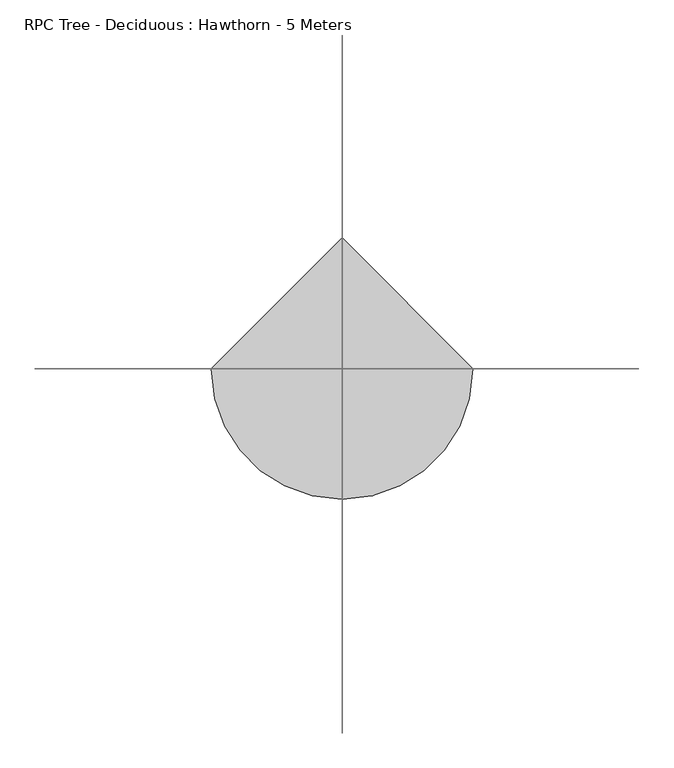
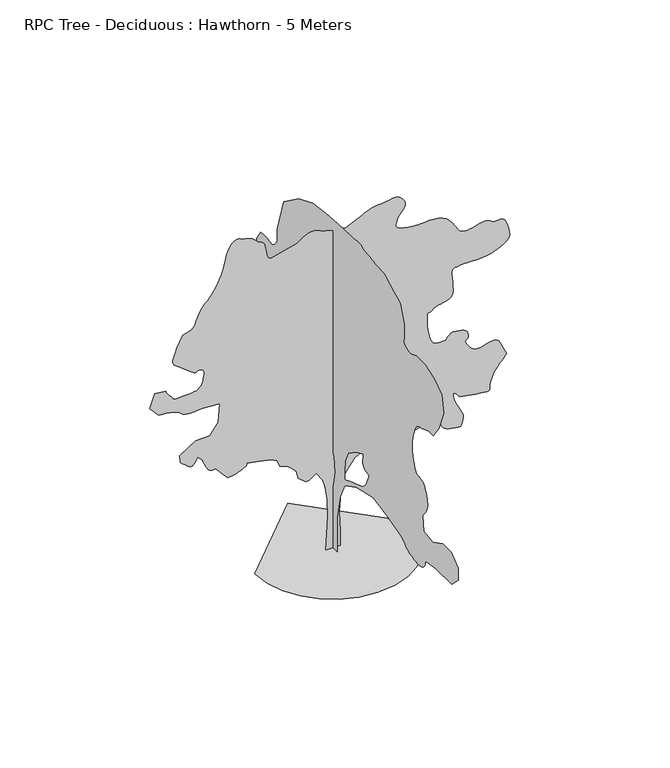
"""IFC4 building model written with IfcOpenShell, lengths in millimetres: geographic element geometry, RPC Tree - Deciduous : Hawthorn - 5 Meters."""

from ifc_helpers import new_model, si_unit, origin, place, context, project, spatial, triangles, source, transform, mapped, element, save


def rpc_tree_deciduous_hawthorn_5_meters_61e68b76(model_context):
    return source(origin(), model_context, "Body", "Tessellation", [
        triangles([(104.4180632, 0.000259, 0.0126693), (-101.1095624, 0.000259, 0.0126693), (-71.748096, 0.0002301, 484.4695201), (-79.0885864, 0.0002152, 734.0392794), (-108.4493942, 0.0002038, 924.8857698), (-137.8108651, 0.0001968, 1042.330636), (-233.2330929, 0.000189, 1174.4554928), (-328.6579914, 0.0001929, 1108.3922287), (-380.0396298, 0.0001933, 1101.0521971), (-482.802834, 0.0001881, 1189.1354834), (-512.1644866, 0.0001811, 1306.5804222), (-614.9277271, 0.000175, 1409.3436264), (-739.7126249, 0.0001719, 1460.7252285), (-776.4142365, 0.0001667, 1548.8085148), (-857.1574911, 0.000164, 1592.8500126), (-1025.982288, 0.0001618, 1629.5516968), (-1194.8088289, 0.0001601, 1658.9116779), (-1193.4821657, 0.0001605, 1652.5566879), (-1193.6321566, 0.0001609, 1645.8149483), (-1196.7354555, 0.0001613, 1638.3033428), (-1204.2687893, 0.0001618, 1629.6367207), (-1217.7071405, 0.0001624, 1619.4283321), (-1238.5303608, 0.0001632, 1607.2950611), (-1268.2121246, 0.000164, 1592.8500126), (-1301.3170807, 0.0001649, 1578.8334263), (-1331.7269978, 0.0001655, 1567.8967392), (-1359.8886509, 0.000166, 1559.5300987), (-1386.2552101, 0.0001664, 1553.2168213), (-1411.2718517, 0.0001667, 1548.4451649), (-1435.3885483, 0.0001669, 1544.70019), (-1459.0584698, 0.0001671, 1541.4684105), (-1539.8017971, 0.0001618, 1629.5516968), (-1627.8850834, 0.0001557, 1732.314901), (-1645.1767605, 0.0001559, 1729.3649357), (-1662.4033253, 0.000156, 1727.5649002), (-1679.4983574, 0.000156, 1728.0815838), (-1696.414912, 0.0001557, 1732.0649162), (-1713.0649132, 0.0001552, 1740.6649727), (-1729.3816498, 0.0001544, 1755.0482517), (-1745.3315483, 0.0001531, 1776.3482597), (-1759.7815384, 0.0001516, 1800.6647987), (-1771.9149548, 0.0001503, 1823.4315777), (-1782.1149136, 0.000149, 1844.9148594), (-1790.7815357, 0.0001478, 1865.381488), (-1798.2982281, 0.0001466, 1885.0647343), (-1805.031538, 0.0001455, 1904.2481564), (-1811.3981552, 0.0001443, 1923.1647343), (-1877.4481934, 0.0001404, 1989.2313412), (-1921.4981209, 0.0001443, 1923.1647343), (-1929.4480717, 0.0001451, 1910.7647644), (-1937.9981312, 0.0001458, 1899.5314384), (-1947.6814064, 0.0001463, 1890.6148315), (-1959.1147202, 0.0001466, 1885.1481594), (-1972.8480389, 0.0001467, 1884.31478), (-1989.4813259, 0.0001464, 1889.2647686), (-2009.5812618, 0.0001457, 1901.1480549), (-2031.8479259, 0.0001447, 1917.9814751), (-2053.8813194, 0.0001436, 1936.1146706), (-2074.4812248, 0.0001425, 1954.1147346), (-2092.5312859, 0.0001415, 1970.564748), (-2106.8478539, 0.0001407, 1984.0646507), (-2116.2812897, 0.0001402, 1993.1979595), (-2119.6812275, 0.00014, 1996.5646145), (-2127.0145008, 0.0001338, 2099.3311615), (-1906.8147148, 0.0001255, 2238.797794), (-1708.6316082, 0.0001251, 2246.1310673), (-1591.1833992, 0.0001159, 2400.2809605), (-1569.1617783, 0.0001002, 2664.530674), (-1811.3981552, 9.88e-05, 2686.5473534), (-1863.1147659, 9.92e-05, 2680.4640038), (-1913.7481579, 9.95e-05, 2675.6805748), (-1962.1981075, 9.96e-05, 2673.4472809), (-2007.3813961, 9.95e-05, 2675.0806114), (-2048.1812313, 9.91e-05, 2681.8473495), (-2083.5312538, 9.83e-05, 2695.0305565), (-2112.3479542, 9.71e-05, 2715.9138748), (-2141.364497, 9.58e-05, 2738.2973923), (-2177.3144829, 9.47e-05, 2755.6637741), (-2219.0478367, 9.39e-05, 2768.8806999), (-2265.3977692, 9.33e-05, 2778.7472488), (-2315.2143505, 9.29e-05, 2786.0970909), (-2367.3476509, 9.26e-05, 2791.7973244), (-2420.6308811, 9.23e-05, 2796.647319), (-2545.4141075, 8.4e-05, 2936.1138062), (-2472.0142273, 7.26e-05, 3126.9634941), (-2325.2143215, 7.35e-05, 3112.280088), (-2315.7310341, 7.45e-05, 3095.0137001), (-2305.9977619, 7.55e-05, 3077.9301498), (-2295.7476608, 7.65e-05, 3061.2468658), (-2284.7143227, 7.75e-05, 3045.1304077), (-2272.6643314, 7.84e-05, 3029.7801819), (-2259.3311337, 7.92e-05, 3015.4136169), (-2244.4644539, 8e-05, 3002.1804131), (-2233.3144077, 8.08e-05, 2989.6968727), (-2228.0811516, 8.15e-05, 2977.8635834), (-2223.8644032, 8.21e-05, 2967.3136459), (-2215.7977444, 8.26e-05, 2958.6970207), (-2198.9977524, 8.3e-05, 2952.6470993), (-2168.5811497, 8.32e-05, 2949.7969826), (-2119.6812275, 8.31e-05, 2950.7969215), (-2065.4813381, 8.29e-05, 2953.94702), (-2021.2812744, 8.27e-05, 2957.0971184), (-1985.4312824, 8.25e-05, 2960.2303574), (-1956.2647488, 8.23e-05, 2963.3804558), (-1932.1147694, 8.22e-05, 2966.5302635), (-1911.281448, 8.2e-05, 2969.6803619), (-1892.1314541, 8.18e-05, 2972.8136009), (-1873.3814358, 8.09e-05, 2987.0470345), (-1855.4147999, 8.01e-05, 3001.7304405), (-1838.9815006, 7.91e-05, 3017.3137917), (-1824.8482063, 7.81e-05, 3034.230201), (-1813.8148682, 7.7e-05, 3052.9636505), (-1806.6148716, 7.58e-05, 3073.930394), (-1804.0481678, 7.43e-05, 3097.5969727), (-1801.4481812, 7.28e-05, 3123.8802521), (-1795.7482384, 7.11e-05, 3151.4468834), (-1790.1815723, 6.95e-05, 3178.8800926), (-1787.9648472, 6.8e-05, 3204.7802559), (-1792.2815895, 6.66e-05, 3227.7134491), (-1806.3648869, 6.55e-05, 3246.2966171), (-1833.4148346, 6.47e-05, 3259.0967079), (-1860.5482075, 6.45e-05, 3261.9633934), (-1877.0315037, 6.49e-05, 3255.9634689), (-1889.2647686, 6.54e-05, 3247.5299721), (-1903.6980446, 6.57e-05, 3243.079953), (-1926.7148083, 6.53e-05, 3249.0301712), (-1964.764666, 6.4e-05, 3271.7968048), (-2024.2646679, 6.12e-05, 3317.8134727), (-2090.2812778, 5.82e-05, 3369.0632515), (-2143.4645142, 5.59e-05, 3406.9632637), (-2183.5478233, 5.41e-05, 3437.0300331), (-2210.2645065, 5.25e-05, 3464.7966522), (-2223.3811478, 5.06e-05, 3495.7465073), (-2222.6310482, 4.82e-05, 3535.4464096), (-2207.7645138, 4.5e-05, 3589.3963142), (-2186.5977825, 4.16e-05, 3647.1797058), (-2166.981102, 3.87e-05, 3695.7130806), (-2148.6312046, 3.63e-05, 3736.546344), (-2131.3312431, 3.42e-05, 3771.2128326), (-2114.7812359, 3.24e-05, 3801.2627426), (-2098.7479122, 3.08e-05, 3828.2294106), (-2082.9812874, 2.93e-05, 3853.6461731), (-2053.214645, 2.89e-05, 3860.1129295), (-2024.1479599, 2.84e-05, 3867.5961937), (-1996.4980488, 2.79e-05, 3877.1461922), (-1970.9647236, 2.71e-05, 3889.7794327), (-1948.2646557, 2.61e-05, 3906.5127136), (-1929.098093, 2.48e-05, 3928.3794022), (-1914.1481335, 2.32e-05, 3956.4125748), (-1903.4980568, 2.15e-05, 3984.7125916), (-1895.4148293, 2.01e-05, 4008.3794609), (-1887.9648479, 1.88e-05, 4029.995874), (-1879.2315147, 1.74e-05, 4052.1125473), (-1867.2815174, 1.59e-05, 4077.3293221), (-1850.2148266, 1.41e-05, 4108.1791832), (-1826.0648472, 1.18e-05, 4147.2625534), (-1800.8982147, 9.7e-06, 4182.9292717), (-1780.2315983, 8.3e-06, 4206.1624466), (-1761.364872, 7.2e-06, 4223.3457001), (-1741.5816319, 6.2e-06, 4240.9123604), (-1718.2148895, 4.7e-06, 4265.279187), (-1688.548241, 2.5e-06, 4302.8789268), (-1649.9049603, -9e-07, 4360.1289207), (-1610.1434338, -4.9e-06, 4426.8123505), (-1578.0868149, -8.6e-06, 4489.1288956), (-1552.4484089, -1.21e-05, 4548.1122139), (-1531.9467533, -1.55e-05, 4604.7788132), (-1515.2967522, -1.88e-05, 4660.1620605), (-1501.2167976, -2.21e-05, 4715.2953232), (-1488.4184509, -2.54e-05, 4771.17854), (-1472.818531, -2.88e-05, 4827.2951729), (-1451.6968552, -3.19e-05, 4880.328273), (-1425.8235798, -3.47e-05, 4927.1951797), (-1395.9703148, -3.7e-05, 4964.8114883), (-1362.906926, -3.85e-05, 4990.1116882), (-1327.4053139, -3.9e-05, 4999.9948059), (-1290.2320015, -3.85e-05, 4991.3947495), (-1253.3604149, -3.76e-05, 4975.6614075), (-1218.1554417, -3.69e-05, 4964.4283722), (-1184.4938335, -3.64e-05, 4954.9952271), (-1152.2438398, -3.58e-05, 4944.6615555), (-1121.277198, -3.49e-05, 4930.728685), (-1091.4672443, -3.37e-05, 4910.4950363), (-1062.6839722, -3.2e-05, 4881.2950745), (-1036.1256369, -3.04e-05, 4855.0452232), (-1012.9072866, -2.96e-05, 4841.2617622), (-992.768981, -2.91e-05, 4833.5285133), (-975.4573923, -2.86e-05, 4825.3952888), (-960.7123621, -2.78e-05, 4810.461898), (-948.2790367, -2.61e-05, 4782.2953033), (-937.8990744, -2.32e-05, 4734.4784546), (-929.1257727, -2e-05, 4680.0454399), (-920.7374039, -1.74e-05, 4635.9952217), (-911.3207548, -1.53e-05, 4601.9786934), (-899.4657372, -1.39e-05, 4577.5787292), (-883.7574663, -1.3e-05, 4562.4287819), (-862.7857813, -1.26e-05, 4556.1288757), (-835.1357975, -1.27e-05, 4558.3121727), (-497.484496, -1.8e-05, 4646.395459), (-458.1495423, -1.96e-05, 4674.3952034), (-418.7529282, -2.12e-05, 4700.4619263), (-379.2262711, -2.25e-05, 4722.6620247), (-339.5079832, -2.35e-05, 4739.1118927), (-299.5313717, -2.4e-05, 4747.8285118), (-259.2347398, -2.4e-05, 4746.9451355), (-218.5531205, -2.32e-05, 4734.4784546), (-178.2998181, -2.22e-05, 4717.1120728), (-139.2015233, -2.13e-05, 4702.4286667), (-101.0663964, -2.06e-05, 4689.995414), (-63.7017712, -1.99e-05, 4679.3620514), (-26.9148066, -1.94e-05, 4670.0620377), (9.4867904, -1.89e-05, 4661.6785378), (45.6957891, -1.84e-05, 4653.7453011), (177.8214861, -1.75e-05, 4639.061895), (383.3479671, -2.28e-05, 4727.1451813), (413.3512593, -2.39e-05, 4745.8951996), (444.0612308, -2.5e-05, 4763.8618355), (476.1828529, -2.6e-05, 4780.2951347), (510.4228051, -2.68e-05, 4794.4285744), (547.4878029, -2.75e-05, 4805.4619125), (588.0844165, -2.79e-05, 4812.6617638), (632.9176901, -2.8e-05, 4815.2284676), (681.5809988, -2.82e-05, 4818.6951164), (731.9142637, -2.87e-05, 4826.7786346), (781.9908583, -2.93e-05, 4836.0283607), (829.8841558, -2.97e-05, 4842.9619492), (873.6691286, -2.98e-05, 4844.111879), (911.4190773, -2.93e-05, 4836.0283607), (941.2090467, -2.8e-05, 4815.2284676), (964.4490526, -2.64e-05, 4788.1286682), (983.3239906, -2.49e-05, 4762.9618904), (997.0623236, -2.35e-05, 4738.9619019), (1004.895639, -2.21e-05, 4715.3287514), (1006.0506557, -2.07e-05, 4691.3119034), (999.759034, -1.92e-05, 4666.1454163), (985.2490185, -1.75e-05, 4639.061895), (967.2740255, -1.61e-05, 4614.4119461), (951.0957253, -1.49e-05, 4595.5287964), (936.714045, -1.4e-05, 4580.1288643), (924.1307287, -1.32e-05, 4565.878862), (913.3457766, -1.23e-05, 4550.4620705), (904.3574444, -1.11e-05, 4531.5954895), (897.1658049, -9.7e-06, 4506.9286812), (889.5907585, -8.1e-06, 4480.3288513), (881.5024441, -6.7e-06, 4456.8122635), (875.9807608, -5.4e-06, 4435.8620888), (876.109096, -4.3e-06, 4416.9623703), (884.9690929, -3.3e-06, 4399.6122665), (905.6407963, -2.3e-06, 4383.2789612), (941.2090467, -1.3e-06, 4367.4621941), (985.9340057, -5e-07, 4353.8790115), (1031.1739769, 0.0, 4344.145594), (1075.6439369, 4e-07, 4337.6122719), (1118.0588625, 7e-07, 4333.6622223), (1157.1354744, 8e-07, 4331.6289162), (1191.5904934, 8e-07, 4330.8789619), (1220.1387508, 8e-07, 4330.7623993), (1252.3888172, 7e-07, 4332.5457207), (1296.5803059, 5e-07, 4335.9958008), (1349.373595, 4e-07, 4338.2790916), (1407.4319698, 5e-07, 4336.5957642), (1467.4168259, 1e-06, 4328.0957016), (1525.9885414, 2.1e-06, 4309.9622154), (1579.8117096, 3.9e-06, 4279.3791985), (1624.7083878, 6.3e-06, 4238.9624794), (1660.3617348, 8.9e-06, 4195.0625427), (1689.2149155, 1.16e-05, 4150.5292145), (1713.6983047, 1.41e-05, 4108.1791832), (1736.2482365, 1.63e-05, 4070.8459969), (1759.3148518, 1.81e-05, 4041.3291939), (1785.3315777, 1.92e-05, 4022.4791817), (1814.5148254, 1.98e-05, 4013.0960335), (1845.2148411, 2e-05, 4009.5125313), (1877.2147774, 1.99e-05, 4010.7293175), (1910.2313667, 1.96e-05, 4015.7958687), (1944.0147697, 1.91e-05, 4023.7625336), (1978.3314251, 1.85e-05, 4033.6459419), (2012.8813511, 1.79e-05, 4044.4958611), (2044.2646099, 1.75e-05, 4050.5960701), (2075.1146164, 1.72e-05, 4055.5460587), (2104.9478245, 1.71e-05, 4058.1793282), (2133.2478413, 1.71e-05, 4057.3459488), (2159.4811237, 1.75e-05, 4051.879422), (2183.1478477, 1.81e-05, 4040.646096), (2203.7311844, 1.92e-05, 4022.4791817), (2226.6810917, 2e-05, 4009.1459839), (2256.0310444, 2.01e-05, 4008.3960297), (2289.2477669, 1.98e-05, 4013.0460365), (2323.7476959, 1.96e-05, 4015.8792938), (2356.9642731, 2e-05, 4009.7459473), (2386.3142258, 2.13e-05, 3987.4292862), (2409.2642784, 2.4e-05, 3941.7294594), (2427.3476223, 2.74e-05, 3884.6628845), (2442.4808556, 3.05e-05, 3832.9794113), (2452.5976799, 3.33e-05, 3786.6961899), (2455.6643532, 3.57e-05, 3745.7963608), (2449.5975723, 3.78e-05, 3710.2962021), (2432.3808907, 3.96e-05, 3680.1797264), (2401.914291, 4.11e-05, 3655.4629211), (2365.5143326, 4.24e-05, 3633.5462357), (2330.0143192, 4.37e-05, 3612.2798012), (2292.7144157, 4.49e-05, 3592.2964279), (2250.9143509, 4.59e-05, 3574.2297981), (2201.9311489, 4.69e-05, 3558.7298721), (2143.0645386, 4.76e-05, 3546.4463196), (2071.6145393, 4.81e-05, 3538.0131134), (2001.7647331, 4.83e-05, 3533.7630821), (1946.9314522, 4.84e-05, 3532.7131462), (1903.2815002, 4.84e-05, 3533.5965225), (1866.9315388, 4.83e-05, 3535.1129997), (1834.0647949, 4.82e-05, 3535.9798073), (1800.8149349, 4.83e-05, 3534.9298714), (1763.3148983, 4.85e-05, 3530.6798401), (1727.1649246, 4.88e-05, 3526.1632553), (1699.7649982, 4.9e-05, 3523.3131386), (1679.9150471, 4.92e-05, 3519.313092), (1666.5033657, 4.97e-05, 3511.3298584), (1658.349939, 5.06e-05, 3496.5464584), (1654.3049824, 5.2e-05, 3472.1299255), (1653.2133339, 5.42e-05, 3435.2632805), (1656.166642, 5.72e-05, 3385.713398), (1662.4584091, 6.06e-05, 3328.3465508), (1668.2316032, 6.42e-05, 3267.8801834), (1669.6483772, 6.77e-05, 3209.0968529), (1662.8432693, 7.08e-05, 3156.7302818), (1643.968404, 7.33e-05, 3115.5301804), (1609.1716908, 7.48e-05, 3090.2636993), (1566.9068287, 7.56e-05, 3076.9302109), (1528.1084702, 7.62e-05, 3067.1967934), (1492.6485706, 7.66e-05, 3059.2469879), (1460.3985043, 7.71e-05, 3051.3137512), (1431.2302265, 7.77e-05, 3041.5803337), (1405.0136581, 7.85e-05, 3028.2468452), (1381.6236614, 7.96e-05, 3009.5136864), (1361.3786762, 8.05e-05, 2994.8971367), (1344.6019386, 8.07e-05, 2990.5636803), (1331.1620613, 8.08e-05, 2989.680304), (1320.9336159, 8.1e-05, 2985.4637009), (1313.7853603, 8.19e-05, 2971.1137047), (1309.5904129, 8.37e-05, 2939.7970116), (1308.220293, 8.7e-05, 2884.7303146), (1311.2170578, 9.12e-05, 2814.3139732), (1319.6069527, 9.54e-05, 2743.7473503), (1332.4887245, 9.94e-05, 2676.5305229), (1348.9669338, 0.000103, 2616.1141525), (1368.1419262, 0.000106, 2565.9808754), (1389.1136112, 0.0001082, 2529.5807716), (1410.9852413, 0.0001093, 2510.3807808), (1436.1085625, 0.0001098, 2503.0475075), (1465.4701424, 0.00011, 2499.2974457), (1496.1152195, 0.0001101, 2498.2475098), (1525.0917938, 0.00011, 2498.997464), (1549.4435051, 0.0001099, 2500.6473633), (1566.2216961, 0.0001098, 2502.2975533), (1572.4717506, 0.0001098, 2503.0475075), (1574.8034397, 0.0001094, 2508.6640251), (1582.1433987, 0.0001086, 2522.8974586), (1595.0051136, 0.0001075, 2541.7474709), (1613.9017799, 0.0001063, 2561.2474434), (1639.3467384, 0.0001053, 2577.4141891), (1671.8483883, 0.0001048, 2586.2473709), (1711.9315521, 0.000105, 2583.780661), (1753.2649303, 0.0001055, 2575.3474548), (1789.0649254, 0.0001059, 2567.564209), (1819.2148293, 0.0001065, 2558.3641891), (1843.5815105, 0.0001072, 2545.6975204), (1862.06483, 0.0001083, 2527.4974686), (1874.4980827, 0.0001099, 2501.7307274), (1880.7648514, 0.000112, 2466.347422), (1878.4148495, 0.0001139, 2434.3476311), (1868.2147453, 0.000115, 2416.2142902), (1854.9481133, 0.0001156, 2406.0643284), (1843.3480946, 0.000116, 2397.9476727), (1838.1815495, 0.0001168, 2385.9809612), (1844.1647598, 0.0001181, 2364.2642635), (1866.0814453, 0.0001203, 2326.8809349), (1895.8980846, 0.0001227, 2286.5143581), (1922.9980293, 0.0001244, 2258.3477634), (1948.3146526, 0.0001254, 2240.1977085), (1972.748045, 0.0001261, 2229.8977558), (1997.1647232, 0.0001263, 2225.2311802), (2022.4813465, 0.0001264, 2224.0311081), (2049.5812912, 0.0001264, 2224.1143879), (2083.1645611, 0.000126, 2230.5311474), (2124.9644806, 0.0001252, 2244.9144264), (2171.4978321, 0.0001243, 2259.931097), (2219.3311043, 0.0001238, 2268.2810234), (2264.9810795, 0.0001241, 2262.6310776), (2304.9809635, 0.0001257, 2235.6644096), (2335.8643982, 0.000129, 2180.0644604), (2360.2309341, 0.0001327, 2118.5645805), (2381.6476501, 0.0001353, 2075.4313122), (2398.0642353, 0.000137, 2045.6312416), (2407.414246, 0.0001383, 2024.1979568), (2407.6642307, 0.0001394, 2006.0813301), (2396.7143177, 0.0001406, 1986.3146587), (2372.5643383, 0.0001422, 1959.8646744), (2344.1643276, 0.0001439, 1930.6981407), (2321.3144142, 0.0001454, 1905.664785), (2303.0476513, 0.0001468, 1884.0647953), (2288.4643845, 0.000148, 1865.2147831), (2276.6476639, 0.0001491, 1848.4315052), (2266.6811211, 0.0001501, 1833.0314278), (2257.6310921, 0.0001511, 1818.2981701), (2255.3810841, 0.0001509, 1819.9147865), (2252.3144108, 0.0001509, 1818.9815586), (2247.6311211, 0.0001511, 1813.014917), (2240.5144043, 0.0001518, 1799.4815861), (2230.1477406, 0.0001532, 1775.864859), (2215.6977505, 0.0001553, 1739.6316055), (2196.3977657, 0.0001583, 1688.2816875), (2181.8477818, 0.0001615, 1635.8649742), (2177.9478745, 0.0001638, 1597.0650169), (2178.281139, 0.0001654, 1570.2083714), (2176.4478207, 0.0001664, 1553.6234825), (2165.9978771, 0.0001668, 1545.6418476), (2140.531263, 0.0001669, 1544.5917664), (2093.6312187, 0.0001667, 1548.8085148), (2036.4313671, 0.0001663, 1555.3134956), (1983.8479488, 0.0001659, 1562.2050808), (1935.1147316, 0.0001654, 1569.4167046), (1889.4647564, 0.000165, 1576.885144), (1846.1315002, 0.0001645, 1584.5467403), (1804.3481495, 0.0001641, 1592.3366718), (1763.3148983, 0.0001636, 1600.1901169), (1736.9149109, 0.0001617, 1632.5050049), (1712.4982327, 0.00016, 1660.5166672), (1692.0483181, 0.0001588, 1679.9316158), (1677.5816139, 0.0001585, 1686.4316551), (1671.08172, 0.0001591, 1675.7317268), (1674.5316547, 0.000161, 1643.5249718), (1689.9150181, 0.0001645, 1585.5100536), (1714.5316841, 0.0001685, 1518.2701172), (1742.0816013, 0.0001719, 1460.1469208), (1769.2648258, 0.000175, 1409.4719616), (1792.7148479, 0.0001776, 1364.5736847), (1809.1148643, 0.0001801, 1323.7853313), (1815.0982201, 0.0001824, 1285.4370907), (1807.3648258, 0.0001846, 1247.8571171), (1795.864801, 0.0001866, 1214.495418), (1790.0315815, 0.0001881, 1189.4771776), (1785.5982765, 0.0001891, 1172.1655163), (1778.348283, 0.0001897, 1161.9138165), (1764.0315697, 0.0001899, 1158.0838177), (1738.4149647, 0.0001898, 1160.0305012), (1697.2482914, 0.0001894, 1167.1138624), (1651.2449947, 0.0001889, 1176.2738411), (1613.1949917, 0.0001883, 1185.562155), (1582.0784317, 0.0001877, 1196.0054855), (1556.8700867, 0.0001869, 1208.6304417), (1536.5400776, 0.000186, 1224.4671204), (1520.0618683, 0.0001848, 1244.5404591), (1506.4084866, 0.0001833, 1269.878738), (1497.7834316, 0.0001817, 1297.2070118), (1494.9385471, 0.0001802, 1322.2236534), (1494.6602211, 0.0001788, 1344.4153221), (1493.7402191, 0.0001777, 1363.2686771), (1488.9668186, 0.0001768, 1378.2702324), (1477.1335293, 0.0001762, 1388.9053391), (1455.0268845, 0.0001758, 1394.6635632), (1428.8536274, 0.0001757, 1397.1668987), (1406.5336235, 0.0001756, 1398.5152176), (1387.4235981, 0.0001756, 1398.9002232), (1370.8802765, 0.0001756, 1398.5152176), (1356.2653255, 0.0001757, 1397.5519043), (1342.9319824, 0.0001758, 1396.2035854), (1330.2420593, 0.0001758, 1394.6635632), (1154.0754868, 0.0001798, 1328.6002991), (1036.6306206, 0.000175, 1409.3436264), (906.1107531, 0.0001774, 1361.8487057), (925.7573736, 0.0001782, 1349.935334), (942.6573595, 0.000179, 1337.6070168), (954.064076, 0.0001799, 1324.4486629), (957.2307432, 0.0001808, 1310.0437283), (949.4107264, 0.0001818, 1293.9769764), (927.8590622, 0.0001829, 1275.8337524), (889.8274446, 0.0001842, 1255.197076), (848.7391823, 0.0001852, 1237.0938206), (817.279184, 0.0001859, 1226.3071243), (791.5992107, 0.0001861, 1222.0704643), (767.8458641, 0.000186, 1223.6104866), (742.1658909, 0.0001856, 1230.1603775), (710.7076366, 0.000185, 1240.945475), (669.6193016, 0.0001842, 1255.197076), (478.7711761, 0.0001807, 1313.9203812), (302.6046943, 0.0001863, 1218.4971359), (170.4798376, 0.0001968, 1042.330636), (126.4390392, 0.0002043, 917.5457382), (111.7580585, 0.0002135, 763.4009319), (89.7377456, 0.0002288, 506.4911774), (104.4180632, 0.0002472, 198.1998025), (-8.07e-05, -103.3387323, 0.010537), (-8.07e-05, 109.5307235, 0.0105497), (-6.64e-05, 116.6263842, 461.2278791), (-5.69e-05, 152.1045148, 695.3842987), (-4.75e-05, 265.6347307, 929.5407183), (-4.27e-05, 372.0696221, 1085.6439079), (-3.8e-05, 556.5561084, 1213.3654724), (-2.85e-05, 875.8607826, 1355.2786125), (-1.9e-05, 1251.930415, 1397.851886), (-1.9e-05, 1471.8951862, 1263.0354057), (-1.9e-05, 1635.0949631, 1241.748769), (-1.42e-05, 1727.3316296, 1419.1402668), (-9.5e-06, 1876.3481152, 1440.4269035), (-4.7e-06, 2188.5478088, 1461.7135403), (0.0, 2373.0475937, 1475.9052612), (4.7e-06, 2465.2809174, 1546.8618313), (4.7e-06, 2458.1976288, 1660.3916748), (9.5e-06, 2571.7139557, 1731.3482449), (9.5e-06, 2603.4806213, 1737.5148743), (9.5e-06, 2634.1807823, 1744.1816185), (9.5e-06, 2662.7639214, 1751.8315876), (1.42e-05, 2688.1806839, 1760.9648964), (1.42e-05, 2709.3974121, 1772.0982285), (1.42e-05, 2725.3138824, 1785.7148392), (1.42e-05, 2734.9138779, 1802.2981293), (1.42e-05, 2740.5806831, 1822.1982227), (1.42e-05, 2745.5138123, 1845.081419), (1.42e-05, 2749.8138405, 1870.4481846), (1.9e-05, 2753.6138992, 1897.798114), (1.9e-05, 2757.0471199, 1926.6313831), (1.9e-05, 2760.2472153, 1956.4647366), (1.9e-05, 2763.2973198, 1986.7980595), (2.37e-05, 2642.6805542, 2135.797831), (1.9e-05, 2380.1308823, 2149.9978363), (1.42e-05, 2224.0311081, 2036.46465), (1.42e-05, 2214.4978237, 2034.5813347), (1.42e-05, 2189.4477539, 2030.0813187), (1.42e-05, 2154.2145847, 2024.7313545), (9.5e-06, 2114.1478443, 2020.2479073), (9.5e-06, 2074.56465, 2018.364592), (9.5e-06, 2040.8312439, 2020.8145878), (9.5e-06, 2018.2645981, 2029.3646473), (9.5e-06, 2002.8479519, 2043.7979233), (9.5e-06, 1987.064613, 2062.3479538), (9.5e-06, 1970.9647236, 2084.281208), (9.5e-06, 1954.6314182, 2108.9645851), (1.42e-05, 1938.0981251, 2135.6978371), (1.42e-05, 1921.4481239, 2163.7978661), (1.42e-05, 1904.7314117, 2192.5644241), (1.9e-05, 1869.2481125, 2369.9643517), (2.37e-05, 2018.2645981, 2483.4809692), (3.32e-05, 2131.7979298, 2675.0640427), (3.32e-05, 1947.2979996, 2845.3638222), (2.85e-05, 1755.7149261, 2781.497081), (2.37e-05, 1635.0949631, 2682.1639), (2.37e-05, 1500.2768841, 2774.4137924), (2.85e-05, 1500.2768841, 2930.5138573), (3.8e-05, 1627.9983032, 3072.4301949), (3.8e-05, 1655.2850098, 3087.6135704), (3.8e-05, 1682.0816299, 3102.6635239), (3.8e-05, 1707.8649399, 3117.480352), (3.8e-05, 1732.1816242, 3131.9134827), (3.8e-05, 1754.4982853, 3145.8635033), (4.27e-05, 1774.3315224, 3159.1801323), (4.27e-05, 1791.1982254, 3171.7633759), (4.27e-05, 1804.3315807, 3189.3134674), (4.27e-05, 1813.7481571, 3216.5301201), (4.27e-05, 1820.0647774, 3251.8300003), (4.75e-05, 1823.8815502, 3293.5634995), (4.75e-05, 1825.8481453, 3340.1632713), (4.75e-05, 1826.5815308, 3389.9631386), (4.75e-05, 1826.6815247, 3441.396627), (5.22e-05, 1734.4316322, 3583.3129646), (5.22e-05, 1731.0982601, 3584.0797783), (5.22e-05, 1721.6982525, 3585.9630936), (5.22e-05, 1707.0649887, 3588.3463783), (5.22e-05, 1688.0982685, 3590.5965317), (5.22e-05, 1665.6499294, 3592.0964401), (5.22e-05, 1640.5966621, 3592.246431), (5.22e-05, 1613.8083263, 3590.4131126), (5.22e-05, 1585.3433487, 3586.2965034), (4.75e-05, 1555.5117393, 3580.9296799), (4.75e-05, 1525.5567364, 3575.6965691), (4.75e-05, 1496.7201244, 3571.9465073), (4.75e-05, 1470.2402, 3571.063131), (4.75e-05, 1447.3602013, 3574.3963577), (4.75e-05, 1429.3219128, 3583.3129646), (4.75e-05, 1414.7369019, 3596.0964867), (4.75e-05, 1401.270282, 3609.9965103), (4.75e-05, 1388.7335472, 3624.8296165), (4.75e-05, 1376.9419704, 3640.4129677), (4.75e-05, 1365.7086445, 3656.5462852), (4.75e-05, 1354.8469528, 3673.0464409), (4.75e-05, 1344.1736217, 3689.7462936), (5.69e-05, 1337.0769619, 3867.1293617), (6.64e-05, 1188.0688334, 4363.8289856), (7.12e-05, 826.1908493, 4626.3786575), (7.12e-05, 485.599502, 4768.2784264), (6.64e-05, 173.3914876, 4810.8618736), (6.17e-05, -131.7212023, 4832.1451675), (5.69e-05, -429.7379045, 4846.3451729), (5.69e-05, -455.8662151, 4847.8285126), (5.69e-05, -494.5295165, 4851.2951614), (5.69e-05, -540.8894411, 4855.2783485), (5.69e-05, -590.104424, 4858.2450279), (5.69e-05, -637.3326822, 4858.7449974), (5.22e-05, -677.7343586, 4855.2783485), (5.22e-05, -706.4693052, 4846.3451729), (5.22e-05, -736.0309456, 4834.9952843), (5.22e-05, -778.7491957, 4825.1618729), (5.22e-05, -829.5358486, 4816.5452477), (5.22e-05, -883.3008081, 4808.9285614), (4.75e-05, -934.955722, 4802.0618294), (4.75e-05, -979.4123835, 4795.6950668), (4.75e-05, -1011.5806234, 4789.5785797), (4.75e-05, -1041.0806396, 4785.3451172), (4.75e-05, -1079.0206203, 4783.6117928), (4.75e-05, -1122.5455799, 4782.4952911), (4.27e-05, -1168.8021315, 4780.1451439), (4.27e-05, -1214.9337633, 4774.6786171), (4.27e-05, -1258.0870159, 4764.2452423), (4.27e-05, -1295.4069763, 4746.9951324), (4.27e-05, -1331.5470669, 4725.0953064), (3.8e-05, -1372.528577, 4702.0618286), (3.8e-05, -1417.5435619, 4678.1121277), (3.8e-05, -1465.7852394, 4653.4118912), (3.32e-05, -1516.4484261, 4628.1454102), (3.32e-05, -1568.7234329, 4602.5120911), (3.32e-05, -1621.8066753, 4576.6953529), (2.37e-05, -1721.1482861, 4328.3622551), (1.42e-05, -1714.0482834, 4101.2958824), (1.42e-05, -1708.2316326, 4090.5959541), (1.42e-05, -1704.0315983, 4079.5960442), (1.42e-05, -1703.0649422, 4067.9627426), (1.42e-05, -1706.9315666, 4055.4126366), (1.42e-05, -1717.2649475, 4041.6126068), (1.42e-05, -1735.6482731, 4026.2626717), (1.42e-05, -1763.7148739, 4009.04599), (1.42e-05, -1797.3815689, 3995.3628136), (9.5e-06, -1831.4148113, 3989.8459991), (9.5e-06, -1865.7481808, 3991.179348), (9.5e-06, -1900.3313896, 3997.9626549), (9.5e-06, -1935.1147316, 4008.8460022), (9.5e-06, -1970.0146362, 4022.4626129), (9.5e-06, -2004.9646832, 4037.4294319), (4.7e-06, -2224.9310532, 4037.4294319), (0.0, -2444.8975685, 3966.4794022), (-4.7e-06, -2622.297496, 3838.7627792), (-1.42e-05, -2664.8640839, 3590.4131126), (-1.9e-05, -2544.2473183, 3292.3967102), (-2.37e-05, -2416.5142719, 3114.9967827), (-2.37e-05, -2393.5309364, 3114.88022), (-2.37e-05, -2369.497665, 3114.0134125), (-2.37e-05, -2343.3476624, 3111.6469872), (-2.37e-05, -2314.0309925, 3107.063546), (-2.37e-05, -2280.4977196, 3099.4802879), (-2.37e-05, -2241.6977623, 3088.196965), (-1.9e-05, -2196.5477566, 3072.4301949), (-1.9e-05, -2151.2644741, 3057.2468193), (-1.9e-05, -2112.314526, 3046.5303223), (-1.9e-05, -2079.0645206, 3037.7968437), (-1.9e-05, -2050.91464, 3028.5636864), (-1.9e-05, -2027.2313473, 3016.363559), (-1.9e-05, -2007.3979649, 2998.6969048), (-1.9e-05, -1990.7813919, 2973.0804451), (-2.37e-05, -1974.5146523, 2936.3303627), (-2.37e-05, -1957.1479797, 2889.2637589), (-2.37e-05, -1940.1314312, 2835.4972733), (-2.37e-05, -1924.9980526, 2778.6306862), (-2.85e-05, -1913.1980461, 2722.2640686), (-2.85e-05, -1906.2480343, 2669.980632), (-2.85e-05, -1905.6313568, 2625.3973068), (-3.32e-05, -1911.5314327, 2579.7974739), (-3.32e-05, -1922.3813519, 2525.6475815), (-3.32e-05, -1937.0980408, 2468.2641655), (-3.8e-05, -1954.5314243, 2412.980912), (-3.8e-05, -1973.5814243, 2365.1643539), (-4.27e-05, -1993.1313938, 2330.1143131), (-4.27e-05, -2012.0646858, 2313.1977585), (-4.27e-05, -2034.6146175, 2308.4810406), (-4.27e-05, -2063.8645763, 2304.9976776), (-4.27e-05, -2096.9645908, 2300.5310898), (-4.27e-05, -2131.0645443, 2292.8309784), (-4.27e-05, -2163.2811825, 2279.6810543), (-4.75e-05, -2190.7978168, 2258.8310188), (-4.75e-05, -2210.7477619, 2228.0477234), (-4.75e-05, -2226.2144051, 2192.3644363), (-4.75e-05, -2241.5644855, 2158.0312122), (-5.22e-05, -2255.7977737, 2124.7144958), (-5.22e-05, -2267.9310448, 2091.9978882), (-5.22e-05, -2276.9477909, 2059.5479794), (-5.22e-05, -2281.8643513, 2026.9646484), (-5.69e-05, -2281.6976463, 1993.881348), (-5.69e-05, -2275.9644207, 1961.4647221), (-5.69e-05, -2265.3977692, 1930.9146973), (-5.69e-05, -2250.7977882, 1901.9147232), (-5.69e-05, -2232.9644291, 1874.1481041), (-5.69e-05, -2212.7145023, 1847.3148582), (-5.69e-05, -2190.8478138, 1821.1148586), (-5.69e-05, -2168.16446, 1795.2148407), (-6.64e-05, -2182.3644653, 1568.148468), (-7.12e-05, -2409.4309834, 1539.7651714), (-7.12e-05, -2643.5807899, 1660.3916748), (-7.12e-05, -2849.3470093, 1660.3916748), (-8.07e-05, -3012.5469315, 1525.5751945), (-8.54e-05, -3019.6470795, 1355.2786125), (-8.54e-05, -2856.4471573, 1199.1754955), (-8.07e-05, -2473.2807198, 1192.0788357), (-8.07e-05, -2232.0310558, 1156.600478), (-8.07e-05, -2225.6477245, 1126.3771774), (-8.07e-05, -2217.381078, 1097.2705965), (-8.07e-05, -2205.4145119, 1070.3989082), (-8.07e-05, -2187.8478516, 1046.8773062), (-8.07e-05, -2162.8312099, 1027.8239634), (-8.07e-05, -2128.5145546, 1014.3573435), (-8.07e-05, -2083.0312843, 1007.5923494), (-8.07e-05, -2034.2479248, 1006.5990234), (-8.07e-05, -1990.7979607, 1009.2056231), (-8.07e-05, -1951.9480064, 1014.6673536), (-7.59e-05, -1916.9481079, 1022.2389845), (-7.59e-05, -1885.0481655, 1031.1756483), (-7.59e-05, -1855.5147938, 1040.7322598), (-7.59e-05, -1827.5814697, 1050.1656229), (-7.59e-05, -1799.0481823, 1063.1989117), (-7.59e-05, -1768.7815704, 1082.3139513), (-7.12e-05, -1737.6482964, 1104.9039242), (-7.12e-05, -1706.5150223, 1128.3639021), (-7.12e-05, -1676.2482651, 1150.0838699), (-7.12e-05, -1647.7283489, 1167.4621696), (-7.12e-05, -1621.8066753, 1177.8871874), (-6.17e-05, -1288.3120605, 1270.1320656), (-5.69e-05, -976.1023384, 1326.89706), (-5.22e-05, -557.4594326, 1227.557048), (-5.22e-05, -280.7297214, 1078.5489195), (-5.69e-05, -174.29483, 858.5841482), (-6.64e-05, -103.3387323, 517.9928009), (-7.59e-05, -103.3387323, 234.1664299), (4.7e-06, 230.1564275, 1426.2351826), (4.7e-06, 251.4430824, 1305.6086792), (0.0, 230.1564275, 1149.5054895), (-9.5e-06, 145.0088541, 993.4007011), (-1.42e-05, 45.6699549, 773.4358572), (-1.42e-05, -18.1909818, 943.7306952), (-4.7e-06, -53.6691124, 1142.4088297), (0.0, -32.382135, 1355.2786125), (4.7e-06, 45.6699549, 1518.4785347), (9.5e-06, 116.6263842, 1575.2433838), (-2.37e-05, -727.755942, 1816.4981346), (-2.37e-05, -564.5560925, 1745.5315361), (-2.37e-05, -372.9729464, 1617.8184013), (-2.85e-05, -302.0163581, 1461.7135403), (-3.32e-05, -287.8247098, 1298.5137634), (-3.8e-05, -287.8247098, 1177.8871874), (-3.8e-05, -401.3562793, 1220.4621323), (-3.8e-05, -592.937754, 1284.3220425), (-3.8e-05, -727.755942, 1341.0886356), (-3.8e-05, -798.712512, 1419.1402668), (-3.32e-05, -869.6691547, 1582.3400436), (-2.85e-05, -763.234227, 1610.7217415), (-2.85e-05, -720.6592821, 1681.6816544), (-1082.8405907, 0.0, 6.45e-05), (-1054.2139223, -248.1147609, 4.98e-05), (-972.6856865, -475.9695302, 3.62e-05), (-844.7825197, -677.0343287, 2.42e-05), (-677.0343287, -844.7825197, 1.42e-05), (-475.9695302, -972.6840151, 6.6e-06), (-248.1147609, -1054.2139223, 1.7e-06), (4.27e-05, -1082.8405907, 0.0), (248.1147609, -1054.2139223, 1.7e-06), (475.9695302, -972.6840151, 6.6e-06), (677.0343287, -844.7825197, 1.42e-05), (844.7825197, -677.0343287, 2.42e-05), (972.6840151, -475.9695302, 3.62e-05), (1054.2139223, -248.1147609, 4.98e-05), (1082.8405907, 9.47e-05, 6.45e-05), (-0.0001471, 1082.8405907, 0.0001291)], [[403, 404, 405], [1, 2, 3], [491, 1, 3], [490, 491, 3], [490, 3, 4], [489, 490, 4], [489, 4, 5], [488, 489, 5], [84, 85, 86], [84, 86, 87], [83, 84, 87], [83, 87, 88], [83, 88, 89], [83, 89, 90], [82, 83, 90], [82, 90, 91], [82, 91, 92], [81, 82, 92], [81, 92, 93], [81, 93, 94], [81, 94, 95], [81, 95, 96], [81, 96, 97], [80, 81, 97], [80, 97, 98], [79, 80, 98], [79, 98, 99], [78, 79, 99], [78, 99, 100], [77, 78, 100], [77, 100, 101], [488, 5, 6], [487, 488, 6], [76, 77, 101], [76, 101, 102], [75, 76, 102], [74, 75, 102], [73, 74, 102], [73, 102, 103], [72, 73, 103], [72, 103, 104], [71, 72, 104], [71, 104, 105], [70, 71, 105], [70, 105, 106], [70, 106, 107], [69, 70, 107], [68, 69, 107], [68, 107, 108], [68, 108, 109], [68, 109, 110], [68, 110, 111], [68, 111, 112], [63, 64, 65], [62, 63, 65], [61, 62, 65], [60, 61, 65], [59, 60, 65], [58, 59, 65], [57, 58, 65], [56, 57, 65], [55, 56, 65], [54, 55, 65], [53, 54, 65], [52, 53, 65], [51, 52, 65], [50, 51, 65], [49, 50, 65], [48, 49, 65], [48, 65, 66], [47, 48, 66], [30, 31, 32], [467, 468, 469], [487, 6, 7], [486, 487, 7], [68, 112, 113], [8, 9, 10], [7, 8, 10], [7, 10, 11], [29, 30, 32], [414, 415, 416], [414, 416, 417], [413, 414, 417], [413, 417, 418], [412, 413, 418], [412, 418, 419], [141, 142, 143], [411, 412, 419], [411, 419, 420], [12, 13, 14], [28, 29, 32], [424, 425, 426], [27, 28, 32], [442, 443, 444], [441, 442, 444], [441, 444, 445], [440, 441, 445], [440, 445, 446], [439, 440, 446], [439, 446, 447], [438, 439, 447], [437, 438, 447], [436, 437, 447], [436, 447, 448], [435, 436, 448], [435, 448, 449], [435, 449, 450], [435, 450, 451], [435, 451, 452], [435, 452, 453], [435, 453, 454], [435, 454, 455], [435, 455, 456], [434, 435, 456], [434, 456, 457], [433, 434, 457], [433, 457, 458], [432, 433, 458], [432, 458, 459], [431, 432, 459], [431, 459, 460], [431, 460, 461], [430, 431, 461], [430, 461, 462], [430, 462, 463], [430, 463, 464], [411, 420, 421], [410, 411, 421], [410, 421, 422], [409, 410, 422], [409, 422, 423], [408, 409, 423], [408, 423, 424], [408, 424, 426], [408, 426, 427], [408, 427, 428], [407, 408, 428], [430, 464, 465], [406, 407, 428], [473, 474, 475], [472, 473, 475], [472, 475, 476], [471, 472, 476], [471, 476, 477], [470, 471, 477], [470, 477, 478], [470, 478, 479], [470, 479, 480], [470, 480, 481], [470, 481, 482], [470, 482, 483], [470, 483, 484], [470, 484, 485], [406, 428, 429], [26, 27, 32], [68, 113, 114], [25, 26, 32], [25, 32, 33], [24, 25, 33], [23, 24, 33], [22, 23, 33], [21, 22, 33], [20, 21, 33], [19, 20, 33], [18, 19, 33], [17, 18, 33], [46, 47, 66], [430, 465, 466], [45, 46, 66], [44, 45, 66], [43, 44, 66], [42, 43, 66], [41, 42, 66], [40, 41, 66], [39, 40, 66], [38, 39, 66], [37, 38, 66], [36, 37, 66], [35, 36, 66], [34, 35, 66], [33, 34, 66], [17, 33, 66], [17, 66, 67], [16, 17, 67], [15, 16, 67], [15, 67, 68], [68, 114, 115], [68, 115, 116], [68, 116, 117], [430, 466, 467], [430, 467, 469], [429, 430, 469], [403, 405, 406], [124, 125, 126], [123, 124, 126], [123, 126, 127], [403, 406, 429], [402, 403, 429], [401, 402, 429], [400, 401, 429], [399, 400, 429], [122, 123, 127], [122, 127, 128], [486, 7, 11], [486, 11, 12], [485, 486, 12], [485, 12, 14], [394, 395, 396], [393, 394, 396], [393, 396, 397], [392, 393, 397], [392, 397, 398], [391, 392, 398], [391, 398, 399], [391, 399, 429], [390, 391, 429], [389, 390, 429], [388, 389, 429], [387, 388, 429], [386, 387, 429], [385, 386, 429], [384, 385, 429], [383, 384, 429], [382, 383, 429], [381, 382, 429], [380, 381, 429], [379, 380, 429], [378, 379, 429], [377, 378, 429], [376, 377, 429], [376, 429, 469], [375, 376, 469], [374, 375, 469], [374, 469, 470], [374, 470, 485], [374, 485, 14], [373, 374, 14], [373, 14, 15], [373, 15, 68], [373, 68, 117], [373, 117, 118], [373, 118, 119], [372, 373, 119], [372, 119, 120], [325, 326, 327], [325, 327, 328], [324, 325, 328], [323, 324, 328], [323, 328, 329], [323, 329, 330], [322, 323, 330], [322, 330, 331], [321, 322, 331], [321, 331, 332], [320, 321, 332], [320, 332, 333], [319, 320, 333], [175, 176, 177], [174, 175, 177], [173, 174, 177], [173, 177, 178], [172, 173, 178], [172, 178, 179], [171, 172, 179], [170, 171, 179], [170, 179, 180], [170, 180, 181], [170, 181, 182], [170, 182, 183], [170, 183, 184], [169, 170, 184], [169, 184, 185], [168, 169, 185], [168, 185, 186], [167, 168, 186], [166, 167, 186], [166, 186, 187], [166, 187, 188], [166, 188, 189], [166, 189, 190], [166, 190, 191], [166, 191, 192], [166, 192, 193], [166, 193, 194], [166, 194, 195], [165, 166, 195], [164, 165, 195], [164, 195, 196], [163, 164, 196], [162, 163, 196], [162, 196, 197], [161, 162, 197], [160, 161, 197], [289, 290, 291], [289, 291, 292], [288, 289, 292], [288, 292, 293], [287, 288, 293], [287, 293, 294], [286, 287, 294], [286, 294, 295], [286, 295, 296], [286, 296, 297], [286, 297, 298], [286, 298, 299], [286, 299, 300], [286, 300, 301], [286, 301, 302], [286, 302, 303], [286, 303, 304], [286, 304, 305], [286, 305, 306], [285, 286, 306], [285, 306, 307], [284, 285, 307], [283, 284, 307], [282, 283, 307], [281, 282, 307], [280, 281, 307], [279, 280, 307], [278, 279, 307], [277, 278, 307], [276, 277, 307], [275, 276, 307], [275, 307, 308], [275, 308, 309], [274, 275, 309], [274, 309, 310], [273, 274, 310], [273, 310, 311], [273, 311, 312], [272, 273, 312], [272, 312, 313], [271, 272, 313], [271, 313, 314], [271, 314, 315], [271, 315, 316], [270, 271, 316], [270, 316, 317], [269, 270, 317], [268, 269, 317], [267, 268, 317], [266, 267, 317], [265, 266, 317], [264, 265, 317], [263, 264, 317], [262, 263, 317], [261, 262, 317], [260, 261, 317], [259, 260, 317], [258, 259, 317], [257, 258, 317], [256, 257, 317], [256, 317, 318], [255, 256, 318], [254, 255, 318], [253, 254, 318], [252, 253, 318], [252, 318, 319], [252, 319, 333], [252, 333, 334], [252, 334, 335], [252, 335, 336], [252, 336, 337], [252, 337, 338], [251, 252, 338], [250, 251, 338], [249, 250, 338], [249, 338, 339], [248, 249, 339], [369, 370, 371], [369, 371, 372], [368, 369, 372], [367, 368, 372], [366, 367, 372], [365, 366, 372], [364, 365, 372], [363, 364, 372], [362, 363, 372], [361, 362, 372], [360, 361, 372], [359, 360, 372], [358, 359, 372], [357, 358, 372], [356, 357, 372], [355, 356, 372], [354, 355, 372], [248, 339, 340], [140, 141, 143], [140, 143, 144], [139, 140, 144], [353, 354, 372], [132, 133, 134], [131, 132, 134], [131, 134, 135], [130, 131, 135], [130, 135, 136], [129, 130, 136], [129, 136, 137], [128, 129, 137], [122, 128, 137], [122, 137, 138], [122, 138, 139], [122, 139, 144], [122, 144, 145], [122, 145, 146], [121, 122, 146], [121, 146, 147], [120, 121, 147], [120, 147, 148], [120, 148, 149], [120, 149, 150], [120, 150, 151], [120, 151, 152], [120, 152, 153], [120, 153, 154], [120, 154, 155], [120, 155, 156], [120, 156, 157], [120, 157, 158], [120, 158, 159], [120, 159, 160], [120, 160, 197], [120, 197, 198], [120, 198, 199], [227, 228, 229], [227, 229, 230], [226, 227, 230], [226, 230, 231], [225, 226, 231], [225, 231, 232], [225, 232, 233], [225, 233, 234], [225, 234, 235], [225, 235, 236], [225, 236, 237], [225, 237, 238], [225, 238, 239], [225, 239, 240], [224, 225, 240], [224, 240, 241], [223, 224, 241], [223, 241, 242], [222, 223, 242], [222, 242, 243], [222, 243, 244], [222, 244, 245], [221, 222, 245], [220, 221, 245], [219, 220, 245], [218, 219, 245], [218, 245, 246], [217, 218, 246], [216, 217, 246], [215, 216, 246], [215, 246, 247], [214, 215, 247], [214, 247, 248], [214, 248, 340], [213, 214, 340], [212, 213, 340], [211, 212, 340], [211, 340, 341], [210, 211, 341], [209, 210, 341], [209, 341, 342], [208, 209, 342], [207, 208, 342], [207, 342, 343], [206, 207, 343], [205, 206, 343], [204, 205, 343], [203, 204, 343], [202, 203, 343], [201, 202, 343], [200, 201, 343], [199, 200, 343], [120, 199, 343], [120, 343, 344], [120, 344, 345], [120, 345, 346], [120, 346, 347], [120, 347, 348], [352, 353, 372], [351, 352, 372], [350, 351, 372], [349, 350, 372], [349, 372, 120], [349, 120, 348], [733, 741, 742], [741, 733, 734], [492, 731, 732], [492, 732, 733], [728, 492, 733], [727, 728, 733], [741, 734, 735], [733, 742, 743], [733, 743, 744], [741, 735, 736], [726, 727, 733], [726, 733, 744], [725, 726, 744], [724, 725, 744], [724, 744, 745], [724, 745, 746], [723, 724, 746], [723, 746, 747], [723, 747, 748], [741, 736, 737], [492, 493, 494], [723, 748, 749], [542, 543, 544], [542, 544, 545], [541, 542, 545], [541, 545, 546], [501, 502, 503], [500, 501, 503], [722, 723, 749], [506, 507, 508], [505, 506, 508], [641, 642, 643], [741, 737, 738], [696, 697, 698], [695, 696, 698], [695, 698, 699], [694, 695, 699], [693, 694, 699], [693, 699, 700], [692, 693, 700], [523, 524, 525], [522, 523, 525], [521, 522, 525], [521, 525, 526], [520, 521, 526], [519, 520, 526], [518, 519, 526], [517, 518, 526], [516, 517, 526], [515, 516, 526], [514, 515, 526], [513, 514, 526], [512, 513, 526], [511, 512, 526], [510, 511, 526], [509, 510, 526], [508, 509, 526], [505, 508, 526], [505, 526, 527], [505, 527, 528], [505, 528, 529], [505, 529, 530], [504, 505, 530], [504, 530, 531], [504, 531, 532], [504, 532, 533], [503, 504, 533], [503, 533, 534], [503, 534, 535], [500, 503, 535], [500, 535, 536], [500, 536, 537], [500, 537, 538], [500, 538, 539], [500, 539, 540], [500, 540, 541], [500, 541, 546], [500, 546, 547], [499, 500, 547], [641, 643, 644], [638, 639, 640], [638, 640, 641], [637, 638, 641], [637, 641, 644], [637, 644, 645], [637, 645, 646], [636, 637, 646], [636, 646, 647], [635, 636, 647], [634, 635, 647], [634, 647, 648], [634, 648, 649], [633, 634, 649], [633, 649, 650], [633, 650, 651], [632, 633, 651], [632, 651, 652], [632, 652, 653], [631, 632, 653], [631, 653, 654], [630, 631, 654], [630, 654, 655], [629, 630, 655], [629, 655, 656], [628, 629, 656], [749, 750, 751], [749, 751, 739], [563, 564, 565], [563, 565, 566], [563, 566, 567], [563, 567, 568], [563, 568, 569], [562, 563, 569], [562, 569, 570], [562, 570, 571], [562, 571, 572], [561, 562, 572], [561, 572, 573], [561, 573, 574], [560, 561, 574], [559, 560, 574], [559, 574, 575], [558, 559, 575], [557, 558, 575], [556, 557, 575], [555, 556, 575], [554, 555, 575], [553, 554, 575], [552, 553, 575], [551, 552, 575], [550, 551, 575], [549, 550, 575], [549, 575, 576], [549, 576, 577], [548, 549, 577], [548, 577, 578], [548, 578, 579], [498, 499, 547], [619, 620, 621], [628, 656, 657], [627, 628, 657], [586, 587, 588], [548, 579, 580], [618, 619, 621], [618, 621, 622], [618, 622, 623], [617, 618, 623], [617, 623, 624], [616, 617, 624], [615, 616, 624], [586, 588, 589], [585, 586, 589], [585, 589, 590], [585, 590, 591], [585, 591, 592], [627, 657, 658], [615, 624, 625], [614, 615, 625], [548, 580, 581], [498, 547, 548], [498, 548, 581], [498, 581, 582], [498, 582, 583], [498, 583, 584], [498, 584, 585], [498, 585, 592], [498, 592, 593], [497, 498, 593], [497, 593, 594], [497, 594, 595], [497, 595, 596], [497, 596, 597], [497, 597, 598], [497, 598, 599], [497, 599, 600], [497, 600, 601], [497, 601, 602], [497, 602, 603], [497, 603, 604], [497, 604, 605], [497, 605, 606], [497, 606, 607], [497, 607, 608], [497, 608, 609], [627, 658, 659], [613, 614, 625], [612, 613, 625], [611, 612, 625], [610, 611, 625], [609, 610, 625], [740, 741, 738], [626, 627, 659], [626, 659, 660], [722, 749, 739], [721, 722, 739], [609, 625, 626], [609, 626, 660], [609, 660, 661], [609, 661, 662], [609, 662, 663], [675, 676, 677], [674, 675, 677], [674, 677, 678], [673, 674, 678], [672, 673, 678], [672, 678, 679], [671, 672, 679], [671, 679, 680], [671, 680, 681], [671, 681, 682], [671, 682, 683], [671, 683, 684], [671, 684, 685], [671, 685, 686], [671, 686, 687], [671, 687, 688], [671, 688, 689], [671, 689, 690], [670, 671, 690], [670, 690, 691], [669, 670, 691], [692, 700, 701], [692, 701, 702], [692, 702, 703], [692, 703, 704], [692, 704, 705], [692, 705, 706], [692, 706, 707], [692, 707, 708], [692, 708, 709], [692, 709, 710], [692, 710, 711], [692, 711, 712], [692, 712, 713], [692, 713, 714], [692, 714, 715], [692, 715, 716], [692, 716, 717], [692, 717, 718], [692, 718, 719], [692, 719, 720], [692, 720, 721], [692, 721, 739], [691, 692, 739], [669, 691, 739], [668, 669, 739], [667, 668, 739], [666, 667, 739], [665, 666, 739], [664, 665, 739], [663, 664, 739], [609, 663, 739], [609, 739, 740], [609, 740, 738], [492, 494, 495], [731, 492, 495], [731, 495, 496], [731, 496, 497], [730, 731, 497], [729, 730, 497], [729, 497, 609], [729, 609, 738], [766, 767, 752], [765, 766, 752], [765, 752, 753], [764, 765, 753], [764, 753, 754], [764, 754, 755], [763, 764, 755], [762, 763, 755], [762, 755, 756], [762, 756, 757], [762, 757, 758], [762, 758, 759], [762, 759, 760], [762, 760, 761]], closed=False),
    ])


if __name__ == "__main__":
    model = new_model("IFC4")
    model_context = context("Model", 3, world=origin())
    ifc_project = project(units=[si_unit("LENGTHUNIT", "METRE", prefix="MILLI")], contexts=[model_context])
    site = spatial("IfcSite", under=ifc_project)
    building = spatial("IfcBuilding", under=site)
    placement = place(None, origin())
    rpc_tree_deciduous_hawthorn_5_meters_shape = rpc_tree_deciduous_hawthorn_5_meters_61e68b76(model_context)
    element("IfcGeographicElement", 1, ObjectType="RPC Tree - Deciduous : Hawthorn - 5 Meters", at=placement, inside=building, context=model_context, shape_type="MappedRepresentation", body=[
        mapped(rpc_tree_deciduous_hawthorn_5_meters_shape, transform((0.0, 0.0, 0.0), x_axis=(1.0, 0.0, 0.0), y_axis=(0.0, 1.0, 0.0), z_axis=(0.0, 0.0, 1.0))),
    ])
    save(model, "model.ifc")
